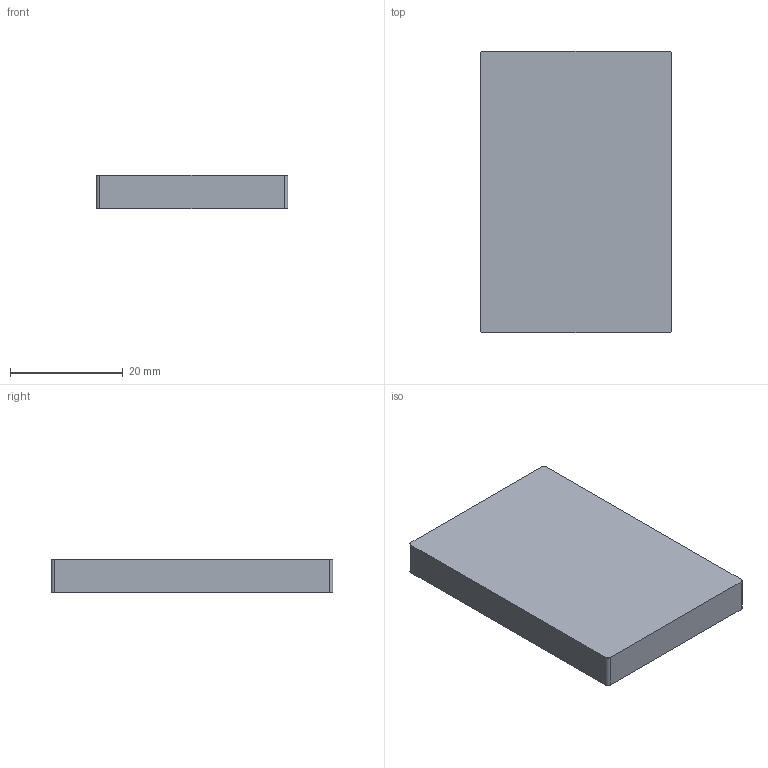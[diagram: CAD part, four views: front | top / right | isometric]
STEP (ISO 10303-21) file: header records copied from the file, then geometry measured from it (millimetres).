
FILE_DESCRIPTION(('Open CASCADE Model'),'2;1');
FILE_NAME('Open CASCADE Shape Model','2026-11-21T23:17:48',('Author'),( 'Open CASCADE'),'Open CASCADE STEP processor 7.9','Open CASCADE 7.9' ,'Unknown');
FILE_SCHEMA(('AUTOMOTIVE_DESIGN { 1 0 10303 214 1 1 1 1 }'));
Length unit declared in the file: millimetre
Products named in the file (1): Open CASCADE STEP translator 7.9 9
Bounding box: 34 x 50 x 6 mm (x, y, z)
Volume: 10198.1 mm3; surface area: 4401.2 mm2
Topology: 1 solids, 1 shells, 10 faces, 24 edges, 16 vertices
Faces by surface type: plane 6, cylinder 4
Entity records: 630 total; most frequent: CARTESIAN_POINT 123, DIRECTION 98, LINE 56, VECTOR 56, ORIENTED_EDGE 48, PCURVE 48, DEFINITIONAL_REPRESENTATION 48, EDGE_CURVE 24
